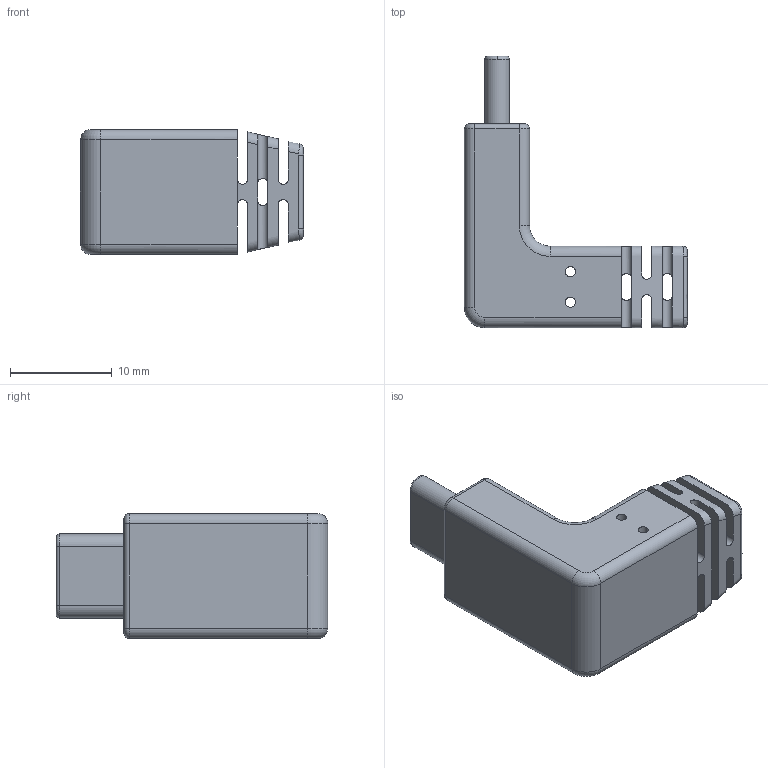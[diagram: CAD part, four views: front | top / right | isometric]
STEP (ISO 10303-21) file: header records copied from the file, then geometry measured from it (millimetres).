
FILE_DESCRIPTION (( 'STEP AP203' ), '1' );
FILE_NAME ('RR-CV.STEP', '2020-10-20T02:41:04', ( '' ), ( '' ), 'SwSTEP 2.0', 'SolidWorks 2019', '' );
FILE_SCHEMA (( 'CONFIG_CONTROL_DESIGN' ));
Length unit declared in the file: millimetre
Products named in the file (1): RR-CV
Bounding box: 21.9 x 26.65 x 12.25 mm (x, y, z)
Volume: 2763.3 mm3; surface area: 2094.4 mm2
Topology: 1 solids, 1 shells, 101 faces, 288 edges, 182 vertices
Faces by surface type: cylinder 45, plane 31, torus 11, bspline 10, cone 4
Entity records: 4470 total; most frequent: CARTESIAN_POINT 1858, ORIENTED_EDGE 576, DIRECTION 485, EDGE_CURVE 288, AXIS2_PLACEMENT_3D 187, VERTEX_POINT 182, LINE 111, VECTOR 111
